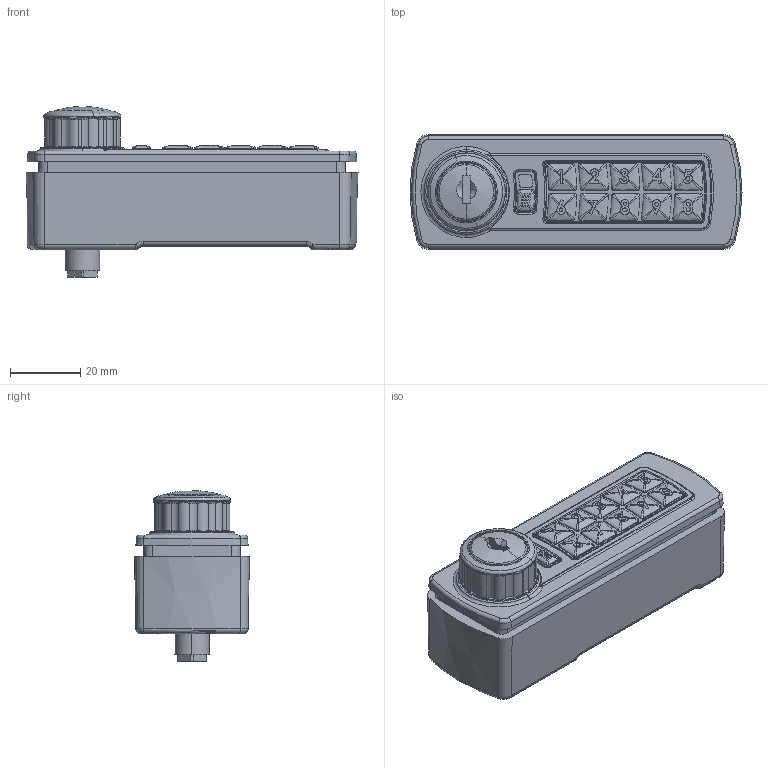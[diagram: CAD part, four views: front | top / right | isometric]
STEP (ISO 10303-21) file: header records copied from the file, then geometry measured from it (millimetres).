
FILE_DESCRIPTION (( 'STEP AP214' ), '1' );
FILE_NAME ('Gemini_D.STEP', '2017-03-03T12:34:10', ( '' ), ( '' ), 'SwSTEP 2.0', 'SolidWorks 2016', '' );
FILE_SCHEMA (( 'AUTOMOTIVE_DESIGN' ));
Length unit declared in the file: millimetre
Products named in the file (15): 8025052_def; Gemini_D; 8025051_def; 9235423_def; 8580171_def; 9247352_def; Half_AA; 9226530_def
Assembly tree (7 placements, depth 2):
  8025052_def
  Gemini_D
    8025051_def
    8025052_def
    8580171_def
    9226530_def
    9235423_def
    9247352_def
    Half_AA
  8580171_def
  8025051_def
  9235423_def
Bounding box: 94.78 x 32.77 x 48.61 mm (x, y, z)
Volume: 51453 mm3; surface area: 46318.1 mm2
Topology: 7 solids, 7 shells, 1551 faces, 4005 edges, 2385 vertices
Faces by surface type: plane 506, bspline 431, cylinder 349, torus 174, cone 70, sphere 21
Entity records: 57333 total; most frequent: CARTESIAN_POINT 20845, ORIENTED_EDGE 7756, DIRECTION 6275, EDGE_CURVE 3878, VERTEX_POINT 2385, AXIS2_PLACEMENT_3D 2333, EDGE_LOOP 1619, LINE 1609
